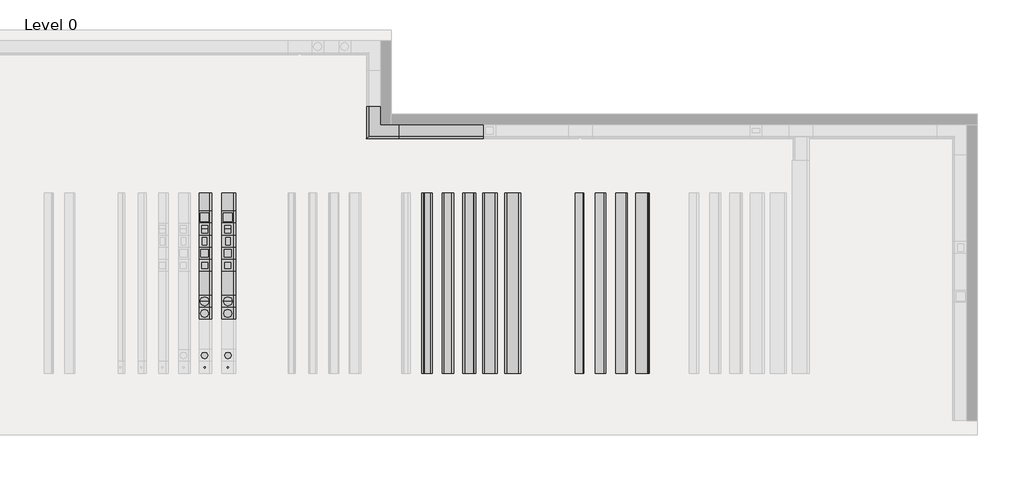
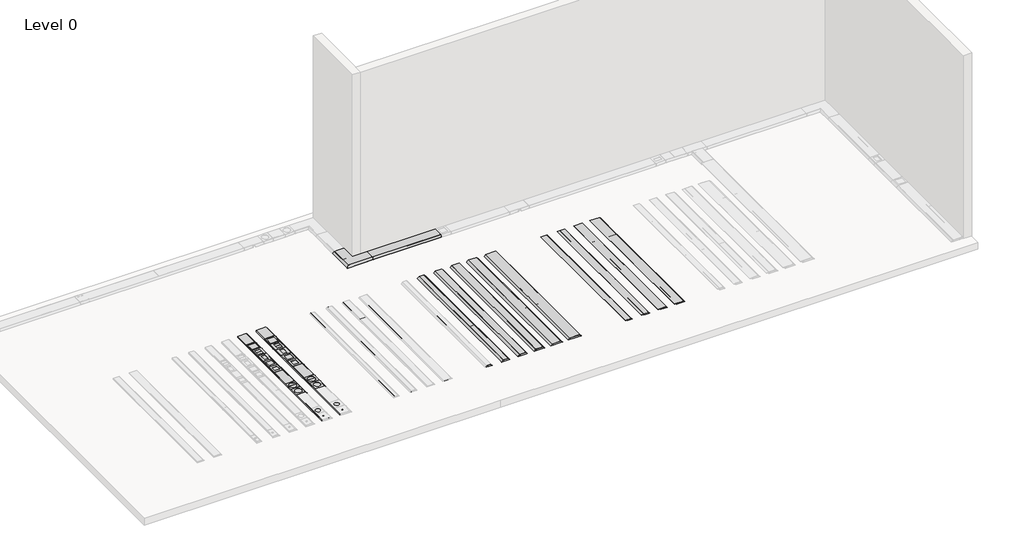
# One storey, part 2 of 3: 43 cable carrier fittings, 42 cable carrier segments, 29 proxies.
"""IFC4 building model written with IfcOpenShell, lengths in millimetres."""

from ifc_helpers import new_model, si_unit, origin, origin_with_axes, place, context, project, spatial, polyline, outline, extrude, transform, mapped, element, save
from components import electrical_fixtures_39b6e9ab, electrical_fixtures_66444e16, electrical_fixtures_59ef84c7, electrical_fixtures_748fc352, electrical_fixtures_c0be5deb, electrical_fixtures_5756d35e, electrical_fixtures_1408edab, electrical_fixtures_814ce579, electrical_fixtures_c0643166, electrical_fixtures_6b5bff6d, electrical_fixtures_c9aeae01, electrical_fixtures_b801d70f, electrical_fixtures_575a85fa, electrical_fixtures_42846515, electrical_fixtures_cfb3ead2, electrical_fixtures_c720a4e9, electrical_fixtures_f3ac6556, electrical_fixtures_dffb07d3, electrical_fixtures_d915aaa8, electrical_fixtures_4e187bc7, electrical_fixtures_55de071a, electrical_fixtures_2036c011, electrical_fixtures_4dae3f6f, electrical_fixtures_a6c5e3de, electrical_fixtures_589ed178, electrical_fixtures_e075263a, electrical_fixtures_3a1a2a50, electrical_fixtures_ad2855bb, electrical_fixtures_2923e737, cable_carrier_fitting_c523f5b3, cable_carrier_fitting_70c32f65, cable_carrier_fitting_6175421c, cable_carrier_fitting_a6788f2b, cable_carrier_fitting_c90adcf6, cable_carrier_fitting_eba510c2, cable_carrier_fitting_cbe752f2, cable_carrier_fitting_706685b8, cable_carrier_fitting_9fda98ba, cable_carrier_fitting_d28e4f6e, cable_carrier_fitting_3b842009, cable_carrier_fitting_430507f7, cable_carrier_fitting_90cd9352, cable_carrier_fitting_27d71de1, cable_carrier_fitting_f198d34f, cable_carrier_fitting_eb91abf8, cable_carrier_fitting_c9a82c37

model = new_model("IFC4")

# Units and contexts
model_context = context("Model", 3, world=origin())
ifc_project = project(units=[si_unit("LENGTHUNIT", "METRE", prefix="MILLI")], contexts=[model_context])

# Site, building, storey
site = spatial("IfcSite", under=ifc_project)
building = spatial("IfcBuilding", under=site)
storey = spatial("IfcBuildingStorey", under=building, Name="Level 0", Elevation=0.0)

# Proxies
placement = place(None, origin())
electrical_fixtures_shape = electrical_fixtures_39b6e9ab(model_context)
element("IfcBuildingElementProxy", 1, Name="Electrical_Installation_Hager_Covers-With-Installation-Opening-E04 : Electrical_Installation_Hager_Covers-With-Installation-Opening-E04", ObjectType="Electrical_Installation_Hager_Covers-With-Installation-Opening-E04 : Electrical_Installation_Hager_Covers-With-Installation-Opening-E04", at=placement, inside=storey, context=model_context, shape_type="MappedRepresentation", body=[
    mapped(electrical_fixtures_shape, transform((554.0029362, -4975.7909265, 35.0), x_axis=(0.0, 1.0000000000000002, 0.0), y_axis=(-1.0000000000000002, 0.0, 0.0), z_axis=(0.0, 0.0, 1.0))),
])
electrical_fixtures_2_shape = electrical_fixtures_66444e16(model_context)
element("IfcBuildingElementProxy", 2, Name="Electrical_Installation_Hager_Covers-With-Installation-Opening-E04 : Electrical_Installation_Hager_Covers-With-Installation-Opening-E04", ObjectType="Electrical_Installation_Hager_Covers-With-Installation-Opening-E04 : Electrical_Installation_Hager_Covers-With-Installation-Opening-E04", at=placement, inside=storey, context=model_context, shape_type="MappedRepresentation", body=[
    mapped(electrical_fixtures_2_shape, transform((1328.4735178, -4975.7909265, 35.0), x_axis=(0.0, 1.0000000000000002, 0.0), y_axis=(-1.0000000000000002, 0.0, 0.0), z_axis=(0.0, 0.0, 1.0))),
])
electrical_fixtures_3_shape = electrical_fixtures_59ef84c7(model_context)
element("IfcBuildingElementProxy", 3, Name="Electrical_Installation_Hager_Covers-With-Installation-Opening-E09 : Electrical_Installation_Hager_Covers-With-Installation-Opening-E09", ObjectType="Electrical_Installation_Hager_Covers-With-Installation-Opening-E09 : Electrical_Installation_Hager_Covers-With-Installation-Opening-E09", at=placement, inside=storey, context=model_context, shape_type="MappedRepresentation", body=[
    mapped(electrical_fixtures_3_shape, transform((1328.4735178, -4575.7909265, 35.0), x_axis=(0.0, 1.0000000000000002, 0.0), y_axis=(-1.0000000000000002, 0.0, 0.0), z_axis=(0.0, 0.0, 1.0))),
])
electrical_fixtures_4_shape = electrical_fixtures_748fc352(model_context)
element("IfcBuildingElementProxy", 4, Name="Electrical_Installation_Hager_Covers-With-Installation-Opening-Q06 : Electrical_Installation_Hager_Covers-With-Installation-Opening-Q06", ObjectType="Electrical_Installation_Hager_Covers-With-Installation-Opening-Q06 : Electrical_Installation_Hager_Covers-With-Installation-Opening-Q06", at=placement, inside=storey, context=model_context, shape_type="MappedRepresentation", body=[
    mapped(electrical_fixtures_4_shape, transform((1328.4735178, -5775.7909265, 35.0), x_axis=(0.0, 1.0000000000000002, 0.0), y_axis=(-1.0000000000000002, 0.0, 0.0), z_axis=(0.0, 0.0, 1.0))),
])
electrical_fixtures_5_shape = electrical_fixtures_c0be5deb(model_context)
element("IfcBuildingElementProxy", 5, Name="Electrical_Installation_Hager_Covers-With-Installation-Opening-Q06 : Electrical_Installation_Hager_Covers-With-Installation-Opening-Q06", ObjectType="Electrical_Installation_Hager_Covers-With-Installation-Opening-Q06 : Electrical_Installation_Hager_Covers-With-Installation-Opening-Q06", at=placement, inside=storey, context=model_context, shape_type="MappedRepresentation", body=[
    mapped(electrical_fixtures_5_shape, transform((554.0029362, -5775.7909265, 35.0), x_axis=(0.0, 1.0000000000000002, 0.0), y_axis=(-1.0000000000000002, 0.0, 0.0), z_axis=(0.0, 0.0, 1.0))),
])
electrical_fixtures_6_shape = electrical_fixtures_5756d35e(model_context)
element("IfcBuildingElementProxy", 6, Name="Electrical_Installation_Hager_Covers-With-Installation-Opening-Q08 : Electrical_Installation_Hager_Covers-With-Installation-Opening-Q08", ObjectType="Electrical_Installation_Hager_Covers-With-Installation-Opening-Q08 : Electrical_Installation_Hager_Covers-With-Installation-Opening-Q08", at=placement, inside=storey, context=model_context, shape_type="MappedRepresentation", body=[
    mapped(electrical_fixtures_6_shape, transform((1328.4735178, -4175.7909265, 35.0), x_axis=(0.0, 1.0000000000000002, 0.0), y_axis=(-1.0000000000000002, 0.0, 0.0), z_axis=(0.0, 0.0, 1.0))),
])
electrical_fixtures_7_shape = electrical_fixtures_1408edab(model_context)
element("IfcBuildingElementProxy", 7, Name="Electrical_Installation_Hager_Covers-With-Installation-Opening-Q12 : Electrical_Installation_Hager_Covers-With-Installation-Opening-Q12", ObjectType="Electrical_Installation_Hager_Covers-With-Installation-Opening-Q12 : Electrical_Installation_Hager_Covers-With-Installation-Opening-Q12", at=placement, inside=storey, context=model_context, shape_type="MappedRepresentation", body=[
    mapped(electrical_fixtures_7_shape, transform((1328.4735178, -5375.7909265, 35.0), x_axis=(0.0, 1.0000000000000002, 0.0), y_axis=(-1.0000000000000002, 0.0, 0.0), z_axis=(0.0, 0.0, 1.0))),
])
electrical_fixtures_8_shape = electrical_fixtures_814ce579(model_context)
element("IfcBuildingElementProxy", 8, Name="Electrical_Installation_Hager_Covers-With-Installation-Opening-Q12 : Electrical_Installation_Hager_Covers-With-Installation-Opening-Q12", ObjectType="Electrical_Installation_Hager_Covers-With-Installation-Opening-Q12 : Electrical_Installation_Hager_Covers-With-Installation-Opening-Q12", at=placement, inside=storey, context=model_context, shape_type="MappedRepresentation", body=[
    mapped(electrical_fixtures_8_shape, transform((554.0029362, -5375.7909265, 35.0), x_axis=(0.0, 1.0000000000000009, 0.0), y_axis=(-1.0000000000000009, 0.0, 0.0), z_axis=(0.0, 0.0, 1.0))),
])
electrical_fixtures_9_shape = electrical_fixtures_c0643166(model_context)
element("IfcBuildingElementProxy", 9, Name="Electrical_Installation_Hager_Covers-With-Installation-Opening-R10 : Electrical_Installation_Hager_Covers-With-Installation-Opening-R10", ObjectType="Electrical_Installation_Hager_Covers-With-Installation-Opening-R10 : Electrical_Installation_Hager_Covers-With-Installation-Opening-R10", at=placement, inside=storey, context=model_context, shape_type="MappedRepresentation", body=[
    mapped(electrical_fixtures_9_shape, transform((554.0029362, -7375.7909265, 35.0), x_axis=(0.0, 1.0000000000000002, 0.0), y_axis=(-1.0000000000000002, 0.0, 0.0), z_axis=(0.0, 0.0, 1.0))),
])
electrical_fixtures_10_shape = electrical_fixtures_6b5bff6d(model_context)
element("IfcBuildingElementProxy", 10, Name="Electrical_Installation_Hager_Covers-With-Installation-Opening-R12 : Electrical_Installation_Hager_Covers-With-Installation-Opening-R12", ObjectType="Electrical_Installation_Hager_Covers-With-Installation-Opening-R12 : Electrical_Installation_Hager_Covers-With-Installation-Opening-R12", at=placement, inside=storey, context=model_context, shape_type="MappedRepresentation", body=[
    mapped(electrical_fixtures_10_shape, transform((554.0029362, -6975.7909265, 35.0), x_axis=(0.0, 1.0000000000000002, 0.0), y_axis=(-1.0000000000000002, 0.0, 0.0), z_axis=(0.0, 0.0, 1.0))),
])
electrical_fixtures_11_shape = electrical_fixtures_c9aeae01(model_context)
element("IfcBuildingElementProxy", 11, Name="Electrical_Installation_Hager_Blank-Cover-800mm-Double-Sided-Extended-100-Height-40mm : Electrical_Installation_Hager_Blank-Cover-800mm-Double-Sided-Extended-100-Height-40mm", ObjectType="Electrical_Installation_Hager_Blank-Cover-800mm-Double-Sided-Extended-100-Height-40mm : Electrical_Installation_Hager_Blank-Cover-800mm-Double-Sided-Extended-100-Height-40mm", at=placement, inside=storey, context=model_context, shape_type="MappedRepresentation", body=[
    mapped(electrical_fixtures_11_shape, transform((13054.0029362, -9175.7909265, 20.0), x_axis=(0.0, 1.0, 0.0), y_axis=(-1.0, 0.0, 0.0), z_axis=(0.0, 0.0, 1.0))),
])
electrical_fixtures_12_shape = electrical_fixtures_b801d70f(model_context)
element("IfcBuildingElementProxy", 12, Name="Electrical_Installation_Hager_Blank-Cover-800mm-Double-Sided-Extended-100-Height-40mm : Electrical_Installation_Hager_Blank-Cover-800mm-Double-Sided-Extended-100-Height-40mm", ObjectType="Electrical_Installation_Hager_Blank-Cover-800mm-Double-Sided-Extended-100-Height-40mm : Electrical_Installation_Hager_Blank-Cover-800mm-Double-Sided-Extended-100-Height-40mm", at=placement, inside=storey, context=model_context, shape_type="MappedRepresentation", body=[
    mapped(electrical_fixtures_12_shape, transform((13754.0029362, -9175.7909265, 20.0), x_axis=(0.0, 1.0, 0.0), y_axis=(-1.0, 0.0, 0.0), z_axis=(0.0, 0.0, 1.0))),
])
electrical_fixtures_13_shape = electrical_fixtures_575a85fa(model_context)
element("IfcBuildingElementProxy", 13, Name="Electrical_Installation_Hager_Blank-Cover-800mm-Double-Sided-Height-70mm : Electrical_Installation_Hager_Blank-Cover-800mm-Double-Sided-Height-70mm", ObjectType="Electrical_Installation_Hager_Blank-Cover-800mm-Double-Sided-Height-70mm : Electrical_Installation_Hager_Blank-Cover-800mm-Double-Sided-Height-70mm", at=placement, inside=storey, context=model_context, shape_type="MappedRepresentation", body=[
    mapped(electrical_fixtures_13_shape, transform((7954.0029362, -9175.7909265, 35.0), x_axis=(0.0, 1.0, 0.0), y_axis=(-1.0, 0.0, 0.0), z_axis=(0.0, 0.0, 1.0))),
])
electrical_fixtures_14_shape = electrical_fixtures_42846515(model_context)
element("IfcBuildingElementProxy", 14, Name="Electrical_Installation_Hager_Blank-Cover-800mm-Double-Sided-Height-70mm : Electrical_Installation_Hager_Blank-Cover-800mm-Double-Sided-Height-70mm", ObjectType="Electrical_Installation_Hager_Blank-Cover-800mm-Double-Sided-Height-70mm : Electrical_Installation_Hager_Blank-Cover-800mm-Double-Sided-Height-70mm", at=placement, inside=storey, context=model_context, shape_type="MappedRepresentation", body=[
    mapped(electrical_fixtures_14_shape, transform((8654.0029362, -9175.7909265, 35.0), x_axis=(0.0, 1.0, 0.0), y_axis=(-1.0, 0.0, 0.0), z_axis=(0.0, 0.0, 1.0))),
])
electrical_fixtures_15_shape = electrical_fixtures_cfb3ead2(model_context)
element("IfcBuildingElementProxy", 15, Name="Electrical_Installation_Hager_Blank-Cover-800mm-Double-Sided-Height-70mm : Electrical_Installation_Hager_Blank-Cover-800mm-Double-Sided-Height-70mm", ObjectType="Electrical_Installation_Hager_Blank-Cover-800mm-Double-Sided-Height-70mm : Electrical_Installation_Hager_Blank-Cover-800mm-Double-Sided-Height-70mm", at=placement, inside=storey, context=model_context, shape_type="MappedRepresentation", body=[
    mapped(electrical_fixtures_15_shape, transform((9354.0029362, -9175.7909265, 35.0), x_axis=(0.0, 1.0, 0.0), y_axis=(-1.0, 0.0, 0.0), z_axis=(0.0, 0.0, 1.0))),
])
electrical_fixtures_16_shape = electrical_fixtures_c720a4e9(model_context)
element("IfcBuildingElementProxy", 16, Name="Electrical_Installation_Hager_Blank-Cover-800mm-Double-Sided-Height-70mm : Electrical_Installation_Hager_Blank-Cover-800mm-Double-Sided-Height-70mm", ObjectType="Electrical_Installation_Hager_Blank-Cover-800mm-Double-Sided-Height-70mm : Electrical_Installation_Hager_Blank-Cover-800mm-Double-Sided-Height-70mm", at=placement, inside=storey, context=model_context, shape_type="MappedRepresentation", body=[
    mapped(electrical_fixtures_16_shape, transform((10054.0029362, -9175.7909265, 35.0), x_axis=(0.0, 1.0, 0.0), y_axis=(-1.0, 0.0, 0.0), z_axis=(0.0, 0.0, 1.0))),
])
electrical_fixtures_17_shape = electrical_fixtures_f3ac6556(model_context)
element("IfcBuildingElementProxy", 17, Name="Electrical_Installation_Hager_Blank-Cover-800mm-Double-Sided-Height-70mm : Electrical_Installation_Hager_Blank-Cover-800mm-Double-Sided-Height-70mm", ObjectType="Electrical_Installation_Hager_Blank-Cover-800mm-Double-Sided-Height-70mm : Electrical_Installation_Hager_Blank-Cover-800mm-Double-Sided-Height-70mm", at=placement, inside=storey, context=model_context, shape_type="MappedRepresentation", body=[
    mapped(electrical_fixtures_17_shape, transform((10806.0429197, -9175.7909265, 35.0), x_axis=(0.0, 1.0, 0.0), y_axis=(-1.0, 0.0, 0.0), z_axis=(0.0, 0.0, 1.0))),
])
electrical_fixtures_18_shape = electrical_fixtures_dffb07d3(model_context)
element("IfcBuildingElementProxy", 18, Name="Electrical_Installation_Hager_Blank-Cover-800mm-Single-Sided-Height-70mm : Electrical_Installation_Hager_Blank-Cover-800mm-Single-Sided-Height-70mm", ObjectType="Electrical_Installation_Hager_Blank-Cover-800mm-Single-Sided-Height-70mm : Electrical_Installation_Hager_Blank-Cover-800mm-Single-Sided-Height-70mm", at=placement, inside=storey, context=model_context, shape_type="MappedRepresentation", body=[
    mapped(electrical_fixtures_18_shape, transform((554.0029362, -3775.7909265, 35.0), x_axis=(0.0, 1.0, 0.0), y_axis=(-1.0, 0.0, 0.0), z_axis=(0.0, 0.0, 1.0))),
])
electrical_fixtures_19_shape = electrical_fixtures_d915aaa8(model_context)
element("IfcBuildingElementProxy", 19, Name="Electrical_Installation_Hager_Blank-Cover-800mm-Single-Sided-Height-70mm : Electrical_Installation_Hager_Blank-Cover-800mm-Single-Sided-Height-70mm", ObjectType="Electrical_Installation_Hager_Blank-Cover-800mm-Single-Sided-Height-70mm : Electrical_Installation_Hager_Blank-Cover-800mm-Single-Sided-Height-70mm", at=placement, inside=storey, context=model_context, shape_type="MappedRepresentation", body=[
    mapped(electrical_fixtures_19_shape, transform((1328.4735178, -3775.7909265, 35.0), x_axis=(0.0, 1.0, 0.0), y_axis=(-1.0, 0.0, 0.0), z_axis=(0.0, 0.0, 1.0))),
])
electrical_fixtures_20_shape = electrical_fixtures_4e187bc7(model_context)
element("IfcBuildingElementProxy", 20, Name="Electrical_Installation_Hager_Blank-Cover-800mm-Single-Sided-Height-70mm : Electrical_Installation_Hager_Blank-Cover-800mm-Single-Sided-Height-70mm", ObjectType="Electrical_Installation_Hager_Blank-Cover-800mm-Single-Sided-Height-70mm : Electrical_Installation_Hager_Blank-Cover-800mm-Single-Sided-Height-70mm", at=placement, inside=storey, context=model_context, shape_type="MappedRepresentation", body=[
    mapped(electrical_fixtures_20_shape, transform((554.0029362, -6575.7909265, 35.0), x_axis=(0.0, 1.0, 0.0), y_axis=(-1.0, 0.0, 0.0), z_axis=(0.0, 0.0, 1.0))),
])
electrical_fixtures_21_shape = electrical_fixtures_55de071a(model_context)
element("IfcBuildingElementProxy", 21, Name="Electrical_Installation_Hager_Blank-Cover-800mm-Single-Sided-Height-70mm : Electrical_Installation_Hager_Blank-Cover-800mm-Single-Sided-Height-70mm", ObjectType="Electrical_Installation_Hager_Blank-Cover-800mm-Single-Sided-Height-70mm : Electrical_Installation_Hager_Blank-Cover-800mm-Single-Sided-Height-70mm", at=placement, inside=storey, context=model_context, shape_type="MappedRepresentation", body=[
    mapped(electrical_fixtures_21_shape, transform((1328.4735178, -6575.7909265, 35.0), x_axis=(0.0, 1.0, 0.0), y_axis=(-1.0, 0.0, 0.0), z_axis=(0.0, 0.0, 1.0))),
])
electrical_fixtures_22_shape = electrical_fixtures_2036c011(model_context)
element("IfcBuildingElementProxy", 22, Name="Electrical_Installation_Hager_Blank-Cover-800mm-Single-Sided-Height-70mm : Electrical_Installation_Hager_Blank-Cover-800mm-Single-Sided-Height-70mm", ObjectType="Electrical_Installation_Hager_Blank-Cover-800mm-Single-Sided-Height-70mm : Electrical_Installation_Hager_Blank-Cover-800mm-Single-Sided-Height-70mm", at=placement, inside=storey, context=model_context, shape_type="MappedRepresentation", body=[
    mapped(electrical_fixtures_22_shape, transform((7010.9359084, -1090.2434021, 35.0), x_axis=(1.0, 0.0, 0.0), y_axis=(0.0, 1.0, 0.0), z_axis=(0.0, 0.0, 1.0))),
])
electrical_fixtures_23_shape = electrical_fixtures_4dae3f6f(model_context)
element("IfcBuildingElementProxy", 23, Name="Electrical_Installation_Hager_Partition-Wall : Electrical_Installation_Hager_Partition-Wall", ObjectType="Electrical_Installation_Hager_Partition-Wall : Electrical_Installation_Hager_Partition-Wall", at=placement, inside=storey, context=model_context, shape_type="MappedRepresentation", body=[
    mapped(electrical_fixtures_23_shape, transform((6279.7529362, -1090.2434021, 35.0), x_axis=(1.0, 0.0, 0.0), y_axis=(0.0, 1.0, 0.0), z_axis=(0.0, 0.0, 1.0))),
])
electrical_fixtures_24_shape = electrical_fixtures_a6c5e3de(model_context)
element("IfcBuildingElementProxy", 24, Name="Electrical_Installation_Hager_Blank-Cover-400mm-Double-Sided-Extended-100-Height-40mm : Electrical_Installation_Hager_Blank-Cover-400mm-Double-Sided-Extended-100-Height-40mm", ObjectType="Electrical_Installation_Hager_Blank-Cover-400mm-Double-Sided-Extended-100-Height-40mm : Electrical_Installation_Hager_Blank-Cover-400mm-Double-Sided-Extended-100-Height-40mm", at=placement, inside=storey, context=model_context, shape_type="MappedRepresentation", body=[
    mapped(electrical_fixtures_24_shape, transform((14454.0029362, -9175.7909265, 20.0), x_axis=(0.0, 1.0, 0.0), y_axis=(-1.0, 0.0, 0.0), z_axis=(0.0, 0.0, 1.0))),
])
electrical_fixtures_25_shape = electrical_fixtures_589ed178(model_context)
element("IfcBuildingElementProxy", 25, Name="Electrical_Installation_Hager_Blank-Cover-400mm-Double-Sided-Extended-100-Height-40mm : Electrical_Installation_Hager_Blank-Cover-400mm-Double-Sided-Extended-100-Height-40mm", ObjectType="Electrical_Installation_Hager_Blank-Cover-400mm-Double-Sided-Extended-100-Height-40mm : Electrical_Installation_Hager_Blank-Cover-400mm-Double-Sided-Extended-100-Height-40mm", at=placement, inside=storey, context=model_context, shape_type="MappedRepresentation", body=[
    mapped(electrical_fixtures_25_shape, transform((15154.0029362, -9175.7909265, 20.0), x_axis=(0.0, 1.0, 0.0), y_axis=(-1.0, 0.0, 0.0), z_axis=(0.0, 0.0, 1.0))),
])
electrical_fixtures_26_shape = electrical_fixtures_e075263a(model_context)
element("IfcBuildingElementProxy", 26, Name="Electrical_Installation_Hager_Covers-With-Installation-Opening-R10 : Electrical_Installation_Hager_Covers-With-Installation-Opening-R10", ObjectType="Electrical_Installation_Hager_Covers-With-Installation-Opening-R10 : Electrical_Installation_Hager_Covers-With-Installation-Opening-R10", at=placement, inside=storey, context=model_context, shape_type="MappedRepresentation", body=[
    mapped(electrical_fixtures_26_shape, transform((1328.4735178, -7375.7909265, 35.0), x_axis=(0.0, 1.0000000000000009, 0.0), y_axis=(-1.0000000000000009, 0.0, 0.0), z_axis=(0.0, 0.0, 1.0))),
])
electrical_fixtures_27_shape = electrical_fixtures_3a1a2a50(model_context)
element("IfcBuildingElementProxy", 27, Name="Electrical_Installation_Hager_Covers-With-Installation-Opening-R12 : Electrical_Installation_Hager_Covers-With-Installation-Opening-R12", ObjectType="Electrical_Installation_Hager_Covers-With-Installation-Opening-R12 : Electrical_Installation_Hager_Covers-With-Installation-Opening-R12", at=placement, inside=storey, context=model_context, shape_type="MappedRepresentation", body=[
    mapped(electrical_fixtures_27_shape, transform((1328.4735178, -6975.7909265, 35.0), x_axis=(0.0, 1.0000000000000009, 0.0), y_axis=(-1.0000000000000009, 0.0, 0.0), z_axis=(0.0, 0.0, 1.0))),
])
electrical_fixtures_28_shape = electrical_fixtures_ad2855bb(model_context)
element("IfcBuildingElementProxy", 28, Name="Electrical_Installation_Hager_Covers-With-Installation-Opening-E09 : Electrical_Installation_Hager_Covers-With-Installation-Opening-E09", ObjectType="Electrical_Installation_Hager_Covers-With-Installation-Opening-E09 : Electrical_Installation_Hager_Covers-With-Installation-Opening-E09", at=placement, inside=storey, context=model_context, shape_type="MappedRepresentation", body=[
    mapped(electrical_fixtures_28_shape, transform((554.0029362, -4575.7909265, 35.0), x_axis=(0.0, 1.0000000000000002, 0.0), y_axis=(-1.0000000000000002, 0.0, 0.0), z_axis=(0.0, 0.0, 1.0))),
])
electrical_fixtures_29_shape = electrical_fixtures_2923e737(model_context)
element("IfcBuildingElementProxy", 29, Name="Electrical_Installation_Hager_Covers-With-Installation-Opening-Q08 : Electrical_Installation_Hager_Covers-With-Installation-Opening-Q08", ObjectType="Electrical_Installation_Hager_Covers-With-Installation-Opening-Q08 : Electrical_Installation_Hager_Covers-With-Installation-Opening-Q08", at=placement, inside=storey, context=model_context, shape_type="MappedRepresentation", body=[
    mapped(electrical_fixtures_29_shape, transform((554.0029362, -4175.7909265, 35.0), x_axis=(0.0, 1.0000000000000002, 0.0), y_axis=(-1.0000000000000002, 0.0, 0.0), z_axis=(0.0, 0.0, 1.0))),
])

# Cable carrier fittings
cable_carrier_fitting_shape = cable_carrier_fitting_c523f5b3(model_context)
element("IfcCableCarrierFitting", 30, ObjectType="Electrical_Installation_Hager_Trunking-Connector : Electrical_Installation_Hager_Trunking-Connector", at=placement, inside=storey, context=model_context, shape_type="MappedRepresentation", body=[
    mapped(cable_carrier_fitting_shape, transform((7254.0029362, -6772.7909265, 35.0), x_axis=(0.0, 1.0, 0.0), y_axis=(1.0, 0.0, 0.0), z_axis=(0.0, 0.0, -1.0))),
])
element("IfcCableCarrierFitting", 31, ObjectType="Electrical_Installation_Hager_Trunking-Connector : Electrical_Installation_Hager_Trunking-Connector", at=placement, inside=storey, context=model_context, shape_type="MappedRepresentation", body=[
    mapped(cable_carrier_fitting_shape, transform((7254.0029362, -4372.7909265, 35.0), x_axis=(0.0, 1.0, 0.0), y_axis=(1.0, 0.0, 0.0), z_axis=(0.0, 0.0, -1.0))),
])
cable_carrier_fitting_2_shape = cable_carrier_fitting_70c32f65(model_context)
element("IfcCableCarrierFitting", 32, ObjectType="Electrical_Installation_Hager_End-Piece : Electrical_Installation_Hager_End-Piece", at=placement, inside=storey, context=model_context, shape_type="MappedRepresentation", body=[
    mapped(cable_carrier_fitting_2_shape, transform((13054.0029362, -9172.7909265, 20.0), x_axis=(0.0, -1.0, 0.0), y_axis=(1.0, 0.0, 0.0), z_axis=(0.0, 0.0, 1.0))),
])
cable_carrier_fitting_3_shape = cable_carrier_fitting_6175421c(model_context)
element("IfcCableCarrierFitting", 33, ObjectType="Electrical_Installation_Hager_End-Piece : Electrical_Installation_Hager_End-Piece", at=placement, inside=storey, context=model_context, shape_type="MappedRepresentation", body=[
    mapped(cable_carrier_fitting_3_shape, transform((7954.0029362, -9172.7909265, 35.0), x_axis=(0.0, -1.0, 0.0), y_axis=(1.0, 0.0, 0.0), z_axis=(0.0, 0.0, 1.0))),
])
cable_carrier_fitting_4_shape = cable_carrier_fitting_a6788f2b(model_context)
element("IfcCableCarrierFitting", 34, ObjectType="Electrical_Installation_Hager_End-Piece : Electrical_Installation_Hager_End-Piece", at=placement, inside=storey, context=model_context, shape_type="MappedRepresentation", body=[
    mapped(cable_carrier_fitting_4_shape, transform((8654.0029362, -9172.7909265, 35.0), x_axis=(0.0, -1.0, 0.0), y_axis=(1.0, 0.0, 0.0), z_axis=(0.0, 0.0, 1.0))),
])
cable_carrier_fitting_5_shape = cable_carrier_fitting_c90adcf6(model_context)
element("IfcCableCarrierFitting", 35, ObjectType="Electrical_Installation_Hager_End-Piece : Electrical_Installation_Hager_End-Piece", at=placement, inside=storey, context=model_context, shape_type="MappedRepresentation", body=[
    mapped(cable_carrier_fitting_5_shape, transform((9354.0029362, -9172.7909265, 35.0), x_axis=(0.0, -1.0, 0.0), y_axis=(1.0, 0.0, 0.0), z_axis=(0.0, 0.0, 1.0))),
])
cable_carrier_fitting_6_shape = cable_carrier_fitting_eba510c2(model_context)
element("IfcCableCarrierFitting", 36, ObjectType="Electrical_Installation_Hager_End-Piece : Electrical_Installation_Hager_End-Piece", at=placement, inside=storey, context=model_context, shape_type="MappedRepresentation", body=[
    mapped(cable_carrier_fitting_6_shape, transform((10054.0029362, -9172.7909265, 35.0), x_axis=(0.0, -1.0, 0.0), y_axis=(1.0, 0.0, 0.0), z_axis=(0.0, 0.0, 1.0))),
])
cable_carrier_fitting_7_shape = cable_carrier_fitting_cbe752f2(model_context)
element("IfcCableCarrierFitting", 37, ObjectType="Electrical_Installation_Hager_End-Piece : Electrical_Installation_Hager_End-Piece", at=placement, inside=storey, context=model_context, shape_type="MappedRepresentation", body=[
    mapped(cable_carrier_fitting_7_shape, transform((14454.0029362, -9172.7909265, 20.0), x_axis=(0.0, -1.0, 0.0), y_axis=(1.0, 0.0, 0.0), z_axis=(0.0, 0.0, 1.0))),
])
cable_carrier_fitting_8_shape = cable_carrier_fitting_706685b8(model_context)
element("IfcCableCarrierFitting", 38, ObjectType="Electrical_Installation_Hager_End-Piece : Electrical_Installation_Hager_End-Piece", at=placement, inside=storey, context=model_context, shape_type="MappedRepresentation", body=[
    mapped(cable_carrier_fitting_8_shape, transform((15154.0029362, -9172.7909265, 20.0), x_axis=(0.0, -1.0, 0.0), y_axis=(1.0, 0.0, 0.0), z_axis=(0.0, 0.0, 1.0))),
])
cable_carrier_fitting_9_shape = cable_carrier_fitting_9fda98ba(model_context)
element("IfcCableCarrierFitting", 39, ObjectType="Electrical_Installation_Hager_End-Piece : Electrical_Installation_Hager_End-Piece", at=placement, inside=storey, context=model_context, shape_type="MappedRepresentation", body=[
    mapped(cable_carrier_fitting_9_shape, transform((13754.0029362, -9172.7909265, 20.0), x_axis=(0.0, -1.0, 0.0), y_axis=(1.0, 0.0, 0.0), z_axis=(0.0, 0.0, 1.0))),
])
cable_carrier_fitting_10_shape = cable_carrier_fitting_d28e4f6e(model_context)
element("IfcCableCarrierFitting", 40, ObjectType="Electrical_Installation_Hager_End-Piece : Electrical_Installation_Hager_End-Piece", at=placement, inside=storey, context=model_context, shape_type="MappedRepresentation", body=[
    mapped(cable_carrier_fitting_10_shape, transform((10806.0429197, -9172.7909265, 35.0), x_axis=(0.0, -1.0, 0.0), y_axis=(1.0, 0.0, 0.0), z_axis=(0.0, 0.0, 1.0))),
])
cable_carrier_fitting_11_shape = cable_carrier_fitting_3b842009(model_context)
element("IfcCableCarrierFitting", 41, ObjectType="Electrical_Installation_Hager_Inner-And-Outer-Corner : Electrical_Installation_Hager_Inner-And-Outer-Corner", at=placement, inside=storey, context=model_context, shape_type="MappedRepresentation", body=[
    mapped(cable_carrier_fitting_11_shape, transform((6210.9359084, -1090.2434021, 35.0), x_axis=(0.0, -1.0, 0.0), y_axis=(1.0, 0.0, 0.0), z_axis=(0.0, 0.0, 1.0))),
])
element("IfcCableCarrierFitting", 42, ObjectType="Electrical_Installation_Hager_Trunking-Connector : Electrical_Installation_Hager_Trunking-Connector", at=placement, inside=storey, context=model_context, shape_type="MappedRepresentation", body=[
    mapped(cable_carrier_fitting_shape, transform((13054.0029362, -6772.7909265, 20.0), x_axis=(0.0, 1.0, 0.0), y_axis=(1.0, 0.0, 0.0), z_axis=(0.0, 0.0, -1.0))),
])
element("IfcCableCarrierFitting", 43, ObjectType="Electrical_Installation_Hager_Trunking-Connector : Electrical_Installation_Hager_Trunking-Connector", at=placement, inside=storey, context=model_context, shape_type="MappedRepresentation", body=[
    mapped(cable_carrier_fitting_shape, transform((13054.0029362, -4372.7909265, 20.0), x_axis=(0.0, 1.0, 0.0), y_axis=(1.0, 0.0, 0.0), z_axis=(0.0, 0.0, -1.0))),
])
element("IfcCableCarrierFitting", 44, ObjectType="Electrical_Installation_Hager_Trunking-Connector : Electrical_Installation_Hager_Trunking-Connector", at=placement, inside=storey, context=model_context, shape_type="MappedRepresentation", body=[
    mapped(cable_carrier_fitting_shape, transform((3454.0029362, -6772.7909265, 20.0), x_axis=(0.0, 1.0, 0.0), y_axis=(1.0, 0.0, 0.0), z_axis=(0.0, 0.0, -1.0))),
])
element("IfcCableCarrierFitting", 45, ObjectType="Electrical_Installation_Hager_Trunking-Connector : Electrical_Installation_Hager_Trunking-Connector", at=placement, inside=storey, context=model_context, shape_type="MappedRepresentation", body=[
    mapped(cable_carrier_fitting_shape, transform((3454.0029362, -4372.7909265, 20.0), x_axis=(0.0, 1.0, 0.0), y_axis=(1.0, 0.0, 0.0), z_axis=(0.0, 0.0, -1.0))),
])
cable_carrier_fitting_12_shape = cable_carrier_fitting_430507f7(model_context)
element("IfcCableCarrierFitting", 46, ObjectType="Electrical_Installation_Hager_Trunking-Connector : Electrical_Installation_Hager_Trunking-Connector", at=placement, inside=storey, context=model_context, shape_type="MappedRepresentation", body=[
    mapped(cable_carrier_fitting_12_shape, transform((4154.0029362, -6772.7909265, 20.0), x_axis=(0.0, 1.0, 0.0), y_axis=(1.0, 0.0, 0.0), z_axis=(0.0, 0.0, -1.0))),
])
element("IfcCableCarrierFitting", 47, ObjectType="Electrical_Installation_Hager_Trunking-Connector : Electrical_Installation_Hager_Trunking-Connector", at=placement, inside=storey, context=model_context, shape_type="MappedRepresentation", body=[
    mapped(cable_carrier_fitting_12_shape, transform((13754.0029362, -6772.7909265, 20.0), x_axis=(0.0, 1.0, 0.0), y_axis=(1.0, 0.0, 0.0), z_axis=(0.0, 0.0, -1.0))),
])
element("IfcCableCarrierFitting", 48, ObjectType="Electrical_Installation_Hager_Trunking-Connector : Electrical_Installation_Hager_Trunking-Connector", at=placement, inside=storey, context=model_context, shape_type="MappedRepresentation", body=[
    mapped(cable_carrier_fitting_12_shape, transform((13754.0029362, -4372.7909265, 20.0), x_axis=(0.0, 1.0, 0.0), y_axis=(1.0, 0.0, 0.0), z_axis=(0.0, 0.0, -1.0))),
])
element("IfcCableCarrierFitting", 49, ObjectType="Electrical_Installation_Hager_Trunking-Connector : Electrical_Installation_Hager_Trunking-Connector", at=placement, inside=storey, context=model_context, shape_type="MappedRepresentation", body=[
    mapped(cable_carrier_fitting_12_shape, transform((4154.0029362, -4372.7909265, 20.0), x_axis=(0.0, 1.0, 0.0), y_axis=(1.0, 0.0, 0.0), z_axis=(0.0, 0.0, -1.0))),
])
cable_carrier_fitting_13_shape = cable_carrier_fitting_90cd9352(model_context)
element("IfcCableCarrierFitting", 50, ObjectType="Electrical_Installation_Hager_Trunking-Connector : Electrical_Installation_Hager_Trunking-Connector", at=placement, inside=storey, context=model_context, shape_type="MappedRepresentation", body=[
    mapped(cable_carrier_fitting_13_shape, transform((4854.0029362, -6772.7909265, 20.0), x_axis=(0.0, 1.0, 0.0), y_axis=(1.0, 0.0, 0.0), z_axis=(0.0, 0.0, -1.0))),
])
element("IfcCableCarrierFitting", 51, ObjectType="Electrical_Installation_Hager_Trunking-Connector : Electrical_Installation_Hager_Trunking-Connector", at=placement, inside=storey, context=model_context, shape_type="MappedRepresentation", body=[
    mapped(cable_carrier_fitting_13_shape, transform((14454.0029362, -6772.7909265, 20.0), x_axis=(0.0, 1.0, 0.0), y_axis=(1.0, 0.0, 0.0), z_axis=(0.0, 0.0, -1.0))),
])
element("IfcCableCarrierFitting", 52, ObjectType="Electrical_Installation_Hager_Trunking-Connector : Electrical_Installation_Hager_Trunking-Connector", at=placement, inside=storey, context=model_context, shape_type="MappedRepresentation", body=[
    mapped(cable_carrier_fitting_13_shape, transform((14454.0029362, -4372.7909265, 20.0), x_axis=(0.0, 1.0, 0.0), y_axis=(1.0, 0.0, 0.0), z_axis=(0.0, 0.0, -1.0))),
])
element("IfcCableCarrierFitting", 53, ObjectType="Electrical_Installation_Hager_Trunking-Connector : Electrical_Installation_Hager_Trunking-Connector", at=placement, inside=storey, context=model_context, shape_type="MappedRepresentation", body=[
    mapped(cable_carrier_fitting_13_shape, transform((4854.0029362, -4372.7909265, 20.0), x_axis=(0.0, 1.0, 0.0), y_axis=(1.0, 0.0, 0.0), z_axis=(0.0, 0.0, -1.0))),
])
cable_carrier_fitting_14_shape = cable_carrier_fitting_27d71de1(model_context)
element("IfcCableCarrierFitting", 54, ObjectType="Electrical_Installation_Hager_Trunking-Connector : Electrical_Installation_Hager_Trunking-Connector", at=placement, inside=storey, context=model_context, shape_type="MappedRepresentation", body=[
    mapped(cable_carrier_fitting_14_shape, transform((5554.0029362, -6772.7909265, 20.0), x_axis=(0.0, 1.0, 0.0), y_axis=(1.0, 0.0, 0.0), z_axis=(0.0, 0.0, -1.0))),
])
element("IfcCableCarrierFitting", 55, ObjectType="Electrical_Installation_Hager_Trunking-Connector : Electrical_Installation_Hager_Trunking-Connector", at=placement, inside=storey, context=model_context, shape_type="MappedRepresentation", body=[
    mapped(cable_carrier_fitting_14_shape, transform((15154.0029362, -6772.7909265, 20.0), x_axis=(0.0, 1.0, 0.0), y_axis=(1.0, 0.0, 0.0), z_axis=(0.0, 0.0, -1.0))),
])
element("IfcCableCarrierFitting", 56, ObjectType="Electrical_Installation_Hager_Trunking-Connector : Electrical_Installation_Hager_Trunking-Connector", at=placement, inside=storey, context=model_context, shape_type="MappedRepresentation", body=[
    mapped(cable_carrier_fitting_14_shape, transform((15154.0029362, -4372.7909265, 20.0), x_axis=(0.0, 1.0, 0.0), y_axis=(1.0, 0.0, 0.0), z_axis=(0.0, 0.0, -1.0))),
])
element("IfcCableCarrierFitting", 57, ObjectType="Electrical_Installation_Hager_Trunking-Connector : Electrical_Installation_Hager_Trunking-Connector", at=placement, inside=storey, context=model_context, shape_type="MappedRepresentation", body=[
    mapped(cable_carrier_fitting_14_shape, transform((5554.0029362, -4372.7909265, 20.0), x_axis=(0.0, 1.0, 0.0), y_axis=(1.0, 0.0, 0.0), z_axis=(0.0, 0.0, -1.0))),
])
element("IfcCableCarrierFitting", 58, ObjectType="Electrical_Installation_Hager_Trunking-Connector : Electrical_Installation_Hager_Trunking-Connector", at=placement, inside=storey, context=model_context, shape_type="MappedRepresentation", body=[
    mapped(cable_carrier_fitting_12_shape, transform((7954.0029362, -6772.7909265, 35.0), x_axis=(0.0, 1.0, 0.0), y_axis=(1.0, 0.0, 0.0), z_axis=(0.0, 0.0, -1.0))),
])
element("IfcCableCarrierFitting", 59, ObjectType="Electrical_Installation_Hager_Trunking-Connector : Electrical_Installation_Hager_Trunking-Connector", at=placement, inside=storey, context=model_context, shape_type="MappedRepresentation", body=[
    mapped(cable_carrier_fitting_12_shape, transform((7954.0029362, -4372.7909265, 35.0), x_axis=(0.0, 1.0, 0.0), y_axis=(1.0, 0.0, 0.0), z_axis=(0.0, 0.0, -1.0))),
])
element("IfcCableCarrierFitting", 60, ObjectType="Electrical_Installation_Hager_Trunking-Connector : Electrical_Installation_Hager_Trunking-Connector", at=placement, inside=storey, context=model_context, shape_type="MappedRepresentation", body=[
    mapped(cable_carrier_fitting_13_shape, transform((8654.0029362, -6772.7909265, 35.0), x_axis=(0.0, 1.0, 0.0), y_axis=(1.0, 0.0, 0.0), z_axis=(0.0, 0.0, -1.0))),
])
element("IfcCableCarrierFitting", 61, ObjectType="Electrical_Installation_Hager_Trunking-Connector : Electrical_Installation_Hager_Trunking-Connector", at=placement, inside=storey, context=model_context, shape_type="MappedRepresentation", body=[
    mapped(cable_carrier_fitting_13_shape, transform((8654.0029362, -4372.7909265, 35.0), x_axis=(0.0, 1.0, 0.0), y_axis=(1.0, 0.0, 0.0), z_axis=(0.0, 0.0, -1.0))),
])
element("IfcCableCarrierFitting", 62, ObjectType="Electrical_Installation_Hager_Trunking-Connector : Electrical_Installation_Hager_Trunking-Connector", at=placement, inside=storey, context=model_context, shape_type="MappedRepresentation", body=[
    mapped(cable_carrier_fitting_14_shape, transform((9354.0029362, -6772.7909265, 35.0), x_axis=(0.0, 1.0, 0.0), y_axis=(1.0, 0.0, 0.0), z_axis=(0.0, 0.0, -1.0))),
])
element("IfcCableCarrierFitting", 63, ObjectType="Electrical_Installation_Hager_Trunking-Connector : Electrical_Installation_Hager_Trunking-Connector", at=placement, inside=storey, context=model_context, shape_type="MappedRepresentation", body=[
    mapped(cable_carrier_fitting_14_shape, transform((9354.0029362, -4372.7909265, 35.0), x_axis=(0.0, 1.0, 0.0), y_axis=(1.0, 0.0, 0.0), z_axis=(0.0, 0.0, -1.0))),
])
cable_carrier_fitting_15_shape = cable_carrier_fitting_f198d34f(model_context)
element("IfcCableCarrierFitting", 64, ObjectType="Electrical_Installation_Hager_Trunking-Connector : Electrical_Installation_Hager_Trunking-Connector", at=placement, inside=storey, context=model_context, shape_type="MappedRepresentation", body=[
    mapped(cable_carrier_fitting_15_shape, transform((554.0029362, -6772.7909265, 35.0), x_axis=(0.0, 1.0, 0.0), y_axis=(1.0, 0.0, 0.0), z_axis=(0.0, 0.0, -1.0))),
])
element("IfcCableCarrierFitting", 65, ObjectType="Electrical_Installation_Hager_Trunking-Connector : Electrical_Installation_Hager_Trunking-Connector", at=placement, inside=storey, context=model_context, shape_type="MappedRepresentation", body=[
    mapped(cable_carrier_fitting_15_shape, transform((10054.0029362, -6772.7909265, 35.0), x_axis=(0.0, 1.0, 0.0), y_axis=(1.0, 0.0, 0.0), z_axis=(0.0, 0.0, -1.0))),
])
element("IfcCableCarrierFitting", 66, ObjectType="Electrical_Installation_Hager_Trunking-Connector : Electrical_Installation_Hager_Trunking-Connector", at=placement, inside=storey, context=model_context, shape_type="MappedRepresentation", body=[
    mapped(cable_carrier_fitting_15_shape, transform((10054.0029362, -4372.7909265, 35.0), x_axis=(0.0, 1.0, 0.0), y_axis=(1.0, 0.0, 0.0), z_axis=(0.0, 0.0, -1.0))),
])
element("IfcCableCarrierFitting", 67, ObjectType="Electrical_Installation_Hager_Trunking-Connector : Electrical_Installation_Hager_Trunking-Connector", at=placement, inside=storey, context=model_context, shape_type="MappedRepresentation", body=[
    mapped(cable_carrier_fitting_15_shape, transform((554.0029362, -4372.7909265, 35.0), x_axis=(0.0, 1.0, 0.0), y_axis=(1.0, 0.0, 0.0), z_axis=(0.0, 0.0, -1.0))),
])
cable_carrier_fitting_16_shape = cable_carrier_fitting_eb91abf8(model_context)
element("IfcCableCarrierFitting", 68, ObjectType="Electrical_Installation_Hager_Trunking-Connector : Electrical_Installation_Hager_Trunking-Connector", at=placement, inside=storey, context=model_context, shape_type="MappedRepresentation", body=[
    mapped(cable_carrier_fitting_16_shape, transform((1328.4735178, -6772.7909265, 35.0), x_axis=(0.0, 1.0, 0.0), y_axis=(1.0, 0.0, 0.0), z_axis=(0.0, 0.0, -1.0))),
])
element("IfcCableCarrierFitting", 69, ObjectType="Electrical_Installation_Hager_Trunking-Connector : Electrical_Installation_Hager_Trunking-Connector", at=placement, inside=storey, context=model_context, shape_type="MappedRepresentation", body=[
    mapped(cable_carrier_fitting_16_shape, transform((10806.0429197, -6772.7909265, 35.0), x_axis=(0.0, 1.0, 0.0), y_axis=(1.0, 0.0, 0.0), z_axis=(0.0, 0.0, -1.0))),
])
element("IfcCableCarrierFitting", 70, ObjectType="Electrical_Installation_Hager_Trunking-Connector : Electrical_Installation_Hager_Trunking-Connector", at=placement, inside=storey, context=model_context, shape_type="MappedRepresentation", body=[
    mapped(cable_carrier_fitting_16_shape, transform((10806.0429197, -4372.7909265, 35.0), x_axis=(0.0, 1.0, 0.0), y_axis=(1.0, 0.0, 0.0), z_axis=(0.0, 0.0, -1.0))),
])
element("IfcCableCarrierFitting", 71, ObjectType="Electrical_Installation_Hager_Trunking-Connector : Electrical_Installation_Hager_Trunking-Connector", at=placement, inside=storey, context=model_context, shape_type="MappedRepresentation", body=[
    mapped(cable_carrier_fitting_16_shape, transform((1328.4735178, -4372.7909265, 35.0), x_axis=(0.0, 1.0, 0.0), y_axis=(1.0, 0.0, 0.0), z_axis=(0.0, 0.0, -1.0))),
])
cable_carrier_fitting_17_shape = cable_carrier_fitting_c9a82c37(model_context)
element("IfcCableCarrierFitting", 72, ObjectType="Electrical_Installation_Hager_End-Piece : Electrical_Installation_Hager_End-Piece", at=placement, inside=storey, context=model_context, shape_type="MappedRepresentation", body=[
    mapped(cable_carrier_fitting_17_shape, transform((7254.0029362, -9172.7909265, 35.0), x_axis=(0.0, -1.0, 0.0), y_axis=(1.0, 0.0, 0.0), z_axis=(0.0, 0.0, 1.0))),
])

# Cable carrier segments
element("IfcCableCarrierSegment", 73, ObjectType="Electrical_Installations_Cable-Trays_Hager_Trunking-Lower-Part-Double-Sided", at=placement, inside=storey, context=model_context, shape_type="SweptSolid", body=[
    extrude(outline(polyline([(4254.0029362, -4372.7909265), (4054.0029362, -4372.7909265), (4054.0029362, -3164.0952507), (4254.0029362, -3164.0952507), (4254.0029362, -4372.7909265)])), origin_with_axes(), (0.0, 0.0, 1.0), 40.0),
])
element("IfcCableCarrierSegment", 74, ObjectType="Electrical_Installations_Cable-Trays_Hager_Trunking-Lower-Part-Double-Sided", at=placement, inside=storey, context=model_context, shape_type="SweptSolid", body=[
    extrude(outline(polyline([(4979.0029362, -4372.7909265), (4729.0029362, -4372.7909265), (4729.0029362, -3164.0952507), (4979.0029362, -3164.0952507), (4979.0029362, -4372.7909265)])), origin_with_axes(), (0.0, 0.0, 1.0), 40.0),
])
element("IfcCableCarrierSegment", 75, ObjectType="Electrical_Installations_Cable-Trays_Hager_Trunking-Lower-Part-Double-Sided", at=placement, inside=storey, context=model_context, shape_type="SweptSolid", body=[
    extrude(outline(polyline([(5704.0029362, -4372.7909265), (5404.0029362, -4372.7909265), (5404.0029362, -3164.0952507), (5704.0029362, -3164.0952507), (5704.0029362, -4372.7909265)])), origin_with_axes(), (0.0, 0.0, 1.0), 40.0),
])
element("IfcCableCarrierSegment", 76, ObjectType="Electrical_Installations_Cable-Trays_Hager_Trunking-Lower-Part-Double-Sided", at=placement, inside=storey, context=model_context, shape_type="SweptSolid", body=[
    extrude(outline(polyline([(7329.0029362, -4372.7909265), (7179.0029362, -4372.7909265), (7179.0029362, -3164.0952507), (7329.0029362, -3164.0952507), (7329.0029362, -4372.7909265)])), origin_with_axes(), (0.0, 0.0, 1.0), 70.0),
])
element("IfcCableCarrierSegment", 77, ObjectType="Electrical_Installations_Cable-Trays_Hager_Trunking-Lower-Part-Double-Sided", at=placement, inside=storey, context=model_context, shape_type="SweptSolid", body=[
    extrude(outline(polyline([(8054.0029362, -4372.7909265), (7854.0029362, -4372.7909265), (7854.0029362, -3164.0952507), (8054.0029362, -3164.0952507), (8054.0029362, -4372.7909265)])), origin_with_axes(), (0.0, 0.0, 1.0), 70.0),
])
element("IfcCableCarrierSegment", 78, ObjectType="Electrical_Installations_Cable-Trays_Hager_Trunking-Lower-Part-Double-Sided", at=placement, inside=storey, context=model_context, shape_type="SweptSolid", body=[
    extrude(outline(polyline([(8779.0029362, -4372.7909265), (8529.0029362, -4372.7909265), (8529.0029362, -3164.0952507), (8779.0029362, -3164.0952507), (8779.0029362, -4372.7909265)])), origin_with_axes(), (0.0, 0.0, 1.0), 70.0),
])
element("IfcCableCarrierSegment", 79, ObjectType="Electrical_Installations_Cable-Trays_Hager_Trunking-Lower-Part-Single-Sided", at=placement, inside=storey, context=model_context, shape_type="SweptSolid", body=[
    extrude(outline(polyline([(1528.4735178, -4372.7909265), (1128.4735178, -4372.7909265), (1128.4735178, -3164.0952507), (1528.4735178, -3164.0952507), (1528.4735178, -4372.7909265)])), origin_with_axes(), (0.0, 0.0, 1.0), 70.0),
])
element("IfcCableCarrierSegment", 80, ObjectType="Electrical_Installations_Cable-Trays_Hager_Trunking-Lower-Part-Single-Sided", at=placement, inside=storey, context=model_context, shape_type="SweptSolid", body=[
    extrude(outline(polyline([(729.0029362, -4372.7909265), (379.0029362, -4372.7909265), (379.0029362, -3164.0952507), (729.0029362, -3164.0952507), (729.0029362, -4372.7909265)])), origin_with_axes(), (0.0, 0.0, 1.0), 70.0),
])
element("IfcCableCarrierSegment", 81, ObjectType="Electrical_Installations_Cable-Trays_Hager_Trunking-Lower-Part-Single-Sided", at=placement, inside=storey, context=model_context, shape_type="SweptSolid", body=[
    extrude(outline(polyline([(729.0029362, -9172.7909265), (379.0029362, -9172.7909265), (379.0029362, -6772.7909265), (729.0029362, -6772.7909265), (729.0029362, -9172.7909265)])), origin_with_axes(), (0.0, 0.0, 1.0), 70.0),
])
element("IfcCableCarrierSegment", 82, ObjectType="Electrical_Installations_Cable-Trays_Hager_Trunking-Lower-Part-Single-Sided", at=placement, inside=storey, context=model_context, shape_type="SweptSolid", body=[
    extrude(outline(polyline([(1528.4735178, -9172.7909265), (1128.4735178, -9172.7909265), (1128.4735178, -6772.7909265), (1528.4735178, -6772.7909265), (1528.4735178, -9172.7909265)])), origin_with_axes(), (0.0, 0.0, 1.0), 70.0),
])
element("IfcCableCarrierSegment", 83, ObjectType="Electrical_Installations_Cable-Trays_Hager_Trunking-Lower-Part-Double-Sided", at=placement, inside=storey, context=model_context, shape_type="SweptSolid", body=[
    extrude(outline(polyline([(4254.0029362, -9172.7909265), (4054.0029362, -9172.7909265), (4054.0029362, -6772.7909265), (4254.0029362, -6772.7909265), (4254.0029362, -9172.7909265)])), origin_with_axes(), (0.0, 0.0, 1.0), 40.0),
])
element("IfcCableCarrierSegment", 84, ObjectType="Electrical_Installations_Cable-Trays_Hager_Trunking-Lower-Part-Double-Sided", at=placement, inside=storey, context=model_context, shape_type="SweptSolid", body=[
    extrude(outline(polyline([(4979.0029362, -9172.7909265), (4729.0029362, -9172.7909265), (4729.0029362, -6772.7909265), (4979.0029362, -6772.7909265), (4979.0029362, -9172.7909265)])), origin_with_axes(), (0.0, 0.0, 1.0), 40.0),
])
element("IfcCableCarrierSegment", 85, ObjectType="Electrical_Installations_Cable-Trays_Hager_Trunking-Lower-Part-Double-Sided", at=placement, inside=storey, context=model_context, shape_type="SweptSolid", body=[
    extrude(outline(polyline([(5704.0029362, -9172.7909265), (5404.0029362, -9172.7909265), (5404.0029362, -6772.7909265), (5704.0029362, -6772.7909265), (5704.0029362, -9172.7909265)])), origin_with_axes(), (0.0, 0.0, 1.0), 40.0),
])
element("IfcCableCarrierSegment", 86, ObjectType="Electrical_Installations_Cable-Trays_Hager_Trunking-Lower-Part-Double-Sided", at=placement, inside=storey, context=model_context, shape_type="SweptSolid", body=[
    extrude(outline(polyline([(7329.0029362, -9172.7909265), (7179.0029362, -9172.7909265), (7179.0029362, -6772.7909265), (7329.0029362, -6772.7909265), (7329.0029362, -9172.7909265)])), origin_with_axes(), (0.0, 0.0, 1.0), 70.0),
])
element("IfcCableCarrierSegment", 87, ObjectType="Electrical_Installations_Cable-Trays_Hager_Trunking-Lower-Part-Double-Sided", at=placement, inside=storey, context=model_context, shape_type="SweptSolid", body=[
    extrude(outline(polyline([(8054.0029362, -9172.7909265), (7854.0029362, -9172.7909265), (7854.0029362, -6772.7909265), (8054.0029362, -6772.7909265), (8054.0029362, -9172.7909265)])), origin_with_axes(), (0.0, 0.0, 1.0), 70.0),
])
element("IfcCableCarrierSegment", 88, ObjectType="Electrical_Installations_Cable-Trays_Hager_Trunking-Lower-Part-Double-Sided", at=placement, inside=storey, context=model_context, shape_type="SweptSolid", body=[
    extrude(outline(polyline([(8779.0029362, -9172.7909265), (8529.0029362, -9172.7909265), (8529.0029362, -6772.7909265), (8779.0029362, -6772.7909265), (8779.0029362, -9172.7909265)])), origin_with_axes(), (0.0, 0.0, 1.0), 70.0),
])
element("IfcCableCarrierSegment", 89, ObjectType="Electrical_Installations_Cable-Trays_Hager_Trunking-Lower-Part-Double-Sided", at=placement, inside=storey, context=model_context, shape_type="SweptSolid", body=[
    extrude(outline(polyline([(9504.0029362, -9172.7909265), (9204.0029362, -9172.7909265), (9204.0029362, -6772.7909265), (9504.0029362, -6772.7909265), (9504.0029362, -9172.7909265)])), origin_with_axes(), (0.0, 0.0, 1.0), 70.0),
])
element("IfcCableCarrierSegment", 90, ObjectType="Electrical_Installations_Cable-Trays_Hager_Trunking-Lower-Part-Double-Sided", at=placement, inside=storey, context=model_context, shape_type="SweptSolid", body=[
    extrude(outline(polyline([(10229.0029362, -9172.7909265), (9879.0029362, -9172.7909265), (9879.0029362, -6772.7909265), (10229.0029362, -6772.7909265), (10229.0029362, -9172.7909265)])), origin_with_axes(), (0.0, 0.0, 1.0), 70.0),
])
element("IfcCableCarrierSegment", 91, ObjectType="Electrical_Installations_Cable-Trays_Hager_Trunking-Lower-Part-Double-Sided", at=placement, inside=storey, context=model_context, shape_type="SweptSolid", body=[
    extrude(outline(polyline([(11006.0429197, -9172.7909265), (10606.0429197, -9172.7909265), (10606.0429197, -6772.7909265), (11006.0429197, -6772.7909265), (11006.0429197, -9172.7909265)])), origin_with_axes(), (0.0, 0.0, 1.0), 70.0),
])
element("IfcCableCarrierSegment", 92, ObjectType="Electrical_Installations_Cable-Trays_Hager_Trunking-Lower-Part-Double-Sided", at=placement, inside=storey, context=model_context, shape_type="SweptSolid", body=[
    extrude(outline(polyline([(13129.0029362, -9172.7909265), (12979.0029362, -9172.7909265), (12979.0029362, -6772.7909265), (13129.0029362, -6772.7909265), (13129.0029362, -9172.7909265)])), origin_with_axes(), (0.0, 0.0, 1.0), 40.0),
])
element("IfcCableCarrierSegment", 93, ObjectType="Electrical_Installations_Cable-Trays_Hager_Trunking-Lower-Part-Double-Sided", at=placement, inside=storey, context=model_context, shape_type="SweptSolid", body=[
    extrude(outline(polyline([(13854.0029362, -9172.7909265), (13654.0029362, -9172.7909265), (13654.0029362, -6772.7909265), (13854.0029362, -6772.7909265), (13854.0029362, -9172.7909265)])), origin_with_axes(), (0.0, 0.0, 1.0), 40.0),
])
element("IfcCableCarrierSegment", 94, ObjectType="Electrical_Installations_Cable-Trays_Hager_Trunking-Lower-Part-Double-Sided", at=placement, inside=storey, context=model_context, shape_type="SweptSolid", body=[
    extrude(outline(polyline([(14579.0029362, -9172.7909265), (14329.0029362, -9172.7909265), (14329.0029362, -6772.7909265), (14579.0029362, -6772.7909265), (14579.0029362, -9172.7909265)])), origin_with_axes(), (0.0, 0.0, 1.0), 40.0),
])
element("IfcCableCarrierSegment", 95, ObjectType="Electrical_Installations_Cable-Trays_Hager_Trunking-Lower-Part-Double-Sided", at=placement, inside=storey, context=model_context, shape_type="SweptSolid", body=[
    extrude(outline(polyline([(15304.0029362, -9172.7909265), (15004.0029362, -9172.7909265), (15004.0029362, -6772.7909265), (15304.0029362, -6772.7909265), (15304.0029362, -9172.7909265)])), origin_with_axes(), (0.0, 0.0, 1.0), 40.0),
])
element("IfcCableCarrierSegment", 96, ObjectType="Electrical_Installations_Cable-Trays_Hager_Trunking-Lower-Part-Double-Sided", at=placement, inside=storey, context=model_context, shape_type="SweptSolid", body=[
    extrude(outline(polyline([(15304.0029362, -6772.7909265), (15004.0029362, -6772.7909265), (15004.0029362, -4372.7909265), (15304.0029362, -4372.7909265), (15304.0029362, -6772.7909265)])), origin_with_axes(), (0.0, 0.0, 1.0), 40.0),
])
element("IfcCableCarrierSegment", 97, ObjectType="Electrical_Installations_Cable-Trays_Hager_Trunking-Lower-Part-Double-Sided", at=placement, inside=storey, context=model_context, shape_type="SweptSolid", body=[
    extrude(outline(polyline([(14579.0029362, -6772.7909265), (14329.0029362, -6772.7909265), (14329.0029362, -4372.7909265), (14579.0029362, -4372.7909265), (14579.0029362, -6772.7909265)])), origin_with_axes(), (0.0, 0.0, 1.0), 40.0),
])
element("IfcCableCarrierSegment", 98, ObjectType="Electrical_Installations_Cable-Trays_Hager_Trunking-Lower-Part-Double-Sided", at=placement, inside=storey, context=model_context, shape_type="SweptSolid", body=[
    extrude(outline(polyline([(13854.0029362, -6772.7909265), (13654.0029362, -6772.7909265), (13654.0029362, -4372.7909265), (13854.0029362, -4372.7909265), (13854.0029362, -6772.7909265)])), origin_with_axes(), (0.0, 0.0, 1.0), 40.0),
])
element("IfcCableCarrierSegment", 99, ObjectType="Electrical_Installations_Cable-Trays_Hager_Trunking-Lower-Part-Double-Sided", at=placement, inside=storey, context=model_context, shape_type="SweptSolid", body=[
    extrude(outline(polyline([(13129.0029362, -6772.7909265), (12979.0029362, -6772.7909265), (12979.0029362, -4372.7909265), (13129.0029362, -4372.7909265), (13129.0029362, -6772.7909265)])), origin_with_axes(), (0.0, 0.0, 1.0), 40.0),
])
element("IfcCableCarrierSegment", 100, ObjectType="Electrical_Installations_Cable-Trays_Hager_Trunking-Lower-Part-Double-Sided", at=placement, inside=storey, context=model_context, shape_type="SweptSolid", body=[
    extrude(outline(polyline([(9504.0029362, -6772.7909265), (9204.0029362, -6772.7909265), (9204.0029362, -4372.7909265), (9504.0029362, -4372.7909265), (9504.0029362, -6772.7909265)])), origin_with_axes(), (0.0, 0.0, 1.0), 70.0),
])
element("IfcCableCarrierSegment", 101, ObjectType="Electrical_Installations_Cable-Trays_Hager_Trunking-Lower-Part-Double-Sided", at=placement, inside=storey, context=model_context, shape_type="SweptSolid", body=[
    extrude(outline(polyline([(8779.0029362, -6772.7909265), (8529.0029362, -6772.7909265), (8529.0029362, -4372.7909265), (8779.0029362, -4372.7909265), (8779.0029362, -6772.7909265)])), origin_with_axes(), (0.0, 0.0, 1.0), 70.0),
])
element("IfcCableCarrierSegment", 102, ObjectType="Electrical_Installations_Cable-Trays_Hager_Trunking-Lower-Part-Double-Sided", at=placement, inside=storey, context=model_context, shape_type="SweptSolid", body=[
    extrude(outline(polyline([(8054.0029362, -6772.7909265), (7854.0029362, -6772.7909265), (7854.0029362, -4372.7909265), (8054.0029362, -4372.7909265), (8054.0029362, -6772.7909265)])), origin_with_axes(), (0.0, 0.0, 1.0), 70.0),
])
element("IfcCableCarrierSegment", 103, ObjectType="Electrical_Installations_Cable-Trays_Hager_Trunking-Lower-Part-Double-Sided", at=placement, inside=storey, context=model_context, shape_type="SweptSolid", body=[
    extrude(outline(polyline([(7329.0029362, -6772.7909265), (7179.0029362, -6772.7909265), (7179.0029362, -4372.7909265), (7329.0029362, -4372.7909265), (7329.0029362, -6772.7909265)])), origin_with_axes(), (0.0, 0.0, 1.0), 70.0),
])
element("IfcCableCarrierSegment", 104, ObjectType="Electrical_Installations_Cable-Trays_Hager_Trunking-Lower-Part-Double-Sided", at=placement, inside=storey, context=model_context, shape_type="SweptSolid", body=[
    extrude(outline(polyline([(10229.0029362, -6772.7909265), (9879.0029362, -6772.7909265), (9879.0029362, -4372.7909265), (10229.0029362, -4372.7909265), (10229.0029362, -6772.7909265)])), origin_with_axes(), (0.0, 0.0, 1.0), 70.0),
])
element("IfcCableCarrierSegment", 105, ObjectType="Electrical_Installations_Cable-Trays_Hager_Trunking-Lower-Part-Double-Sided", at=placement, inside=storey, context=model_context, shape_type="SweptSolid", body=[
    extrude(outline(polyline([(11006.0429197, -6772.7909265), (10606.0429197, -6772.7909265), (10606.0429197, -4372.7909265), (11006.0429197, -4372.7909265), (11006.0429197, -6772.7909265)])), origin_with_axes(), (0.0, 0.0, 1.0), 70.0),
])
element("IfcCableCarrierSegment", 106, ObjectType="Electrical_Installations_Cable-Trays_Hager_Trunking-Lower-Part-Double-Sided", at=placement, inside=storey, context=model_context, shape_type="SweptSolid", body=[
    extrude(outline(polyline([(4254.0029362, -6772.7909265), (4054.0029362, -6772.7909265), (4054.0029362, -4372.7909265), (4254.0029362, -4372.7909265), (4254.0029362, -6772.7909265)])), origin_with_axes(), (0.0, 0.0, 1.0), 40.0),
])
element("IfcCableCarrierSegment", 107, ObjectType="Electrical_Installations_Cable-Trays_Hager_Trunking-Lower-Part-Double-Sided", at=placement, inside=storey, context=model_context, shape_type="SweptSolid", body=[
    extrude(outline(polyline([(4979.0029362, -6772.7909265), (4729.0029362, -6772.7909265), (4729.0029362, -4372.7909265), (4979.0029362, -4372.7909265), (4979.0029362, -6772.7909265)])), origin_with_axes(), (0.0, 0.0, 1.0), 40.0),
])
element("IfcCableCarrierSegment", 108, ObjectType="Electrical_Installations_Cable-Trays_Hager_Trunking-Lower-Part-Double-Sided", at=placement, inside=storey, context=model_context, shape_type="SweptSolid", body=[
    extrude(outline(polyline([(5704.0029362, -6772.7909265), (5404.0029362, -6772.7909265), (5404.0029362, -4372.7909265), (5704.0029362, -4372.7909265), (5704.0029362, -6772.7909265)])), origin_with_axes(), (0.0, 0.0, 1.0), 40.0),
])
element("IfcCableCarrierSegment", 109, ObjectType="Electrical_Installations_Cable-Trays_Hager_Trunking-Lower-Part-Single-Sided", at=placement, inside=storey, context=model_context, shape_type="SweptSolid", body=[
    extrude(outline(polyline([(1528.4735178, -6772.7909265), (1128.4735178, -6772.7909265), (1128.4735178, -4372.7909265), (1528.4735178, -4372.7909265), (1528.4735178, -6772.7909265)])), origin_with_axes(), (0.0, 0.0, 1.0), 70.0),
])
element("IfcCableCarrierSegment", 110, ObjectType="Electrical_Installations_Cable-Trays_Hager_Trunking-Lower-Part-Single-Sided", at=placement, inside=storey, context=model_context, shape_type="SweptSolid", body=[
    extrude(outline(polyline([(729.0029362, -6772.7909265), (379.0029362, -6772.7909265), (379.0029362, -4372.7909265), (729.0029362, -4372.7909265), (729.0029362, -6772.7909265)])), origin_with_axes(), (0.0, 0.0, 1.0), 70.0),
])
element("IfcCableCarrierSegment", 111, ObjectType="Electrical_Installations_Cable-Trays_Hager_Trunking-Lower-Part-Single-Sided", at=placement, inside=storey, context=model_context, shape_type="SweptSolid", body=[
    extrude(outline(polyline([(6410.9359084, -1290.2434021), (6410.9359084, -890.2434021), (8809.7529362, -890.2434021), (8809.7529362, -1290.2434021), (6410.9359084, -1290.2434021)])), origin_with_axes(), (0.0, 0.0, 1.0), 70.0),
])
element("IfcCableCarrierSegment", 112, ObjectType="Electrical_Installations_Cable-Trays_Hager_Trunking-Lower-Part-Double-Sided", at=placement, inside=storey, context=model_context, shape_type="SweptSolid", body=[
    extrude(outline(polyline([(3529.0029362, -4372.7909265), (3379.0029362, -4372.7909265), (3379.0029362, -3164.0952507), (3529.0029362, -3164.0952507), (3529.0029362, -4372.7909265)])), origin_with_axes(), (0.0, 0.0, 1.0), 40.0),
])
element("IfcCableCarrierSegment", 113, ObjectType="Electrical_Installations_Cable-Trays_Hager_Trunking-Lower-Part-Double-Sided", at=placement, inside=storey, context=model_context, shape_type="SweptSolid", body=[
    extrude(outline(polyline([(3529.0029362, -9172.7909265), (3379.0029362, -9172.7909265), (3379.0029362, -6772.7909265), (3529.0029362, -6772.7909265), (3529.0029362, -9172.7909265)])), origin_with_axes(), (0.0, 0.0, 1.0), 40.0),
])
element("IfcCableCarrierSegment", 114, ObjectType="Electrical_Installations_Cable-Trays_Hager_Trunking-Lower-Part-Double-Sided", at=placement, inside=storey, context=model_context, shape_type="SweptSolid", body=[
    extrude(outline(polyline([(3529.0029362, -6772.7909265), (3379.0029362, -6772.7909265), (3379.0029362, -4372.7909265), (3529.0029362, -4372.7909265), (3529.0029362, -6772.7909265)])), origin_with_axes(), (0.0, 0.0, 1.0), 40.0),
])

save(model, "model.ifc")
